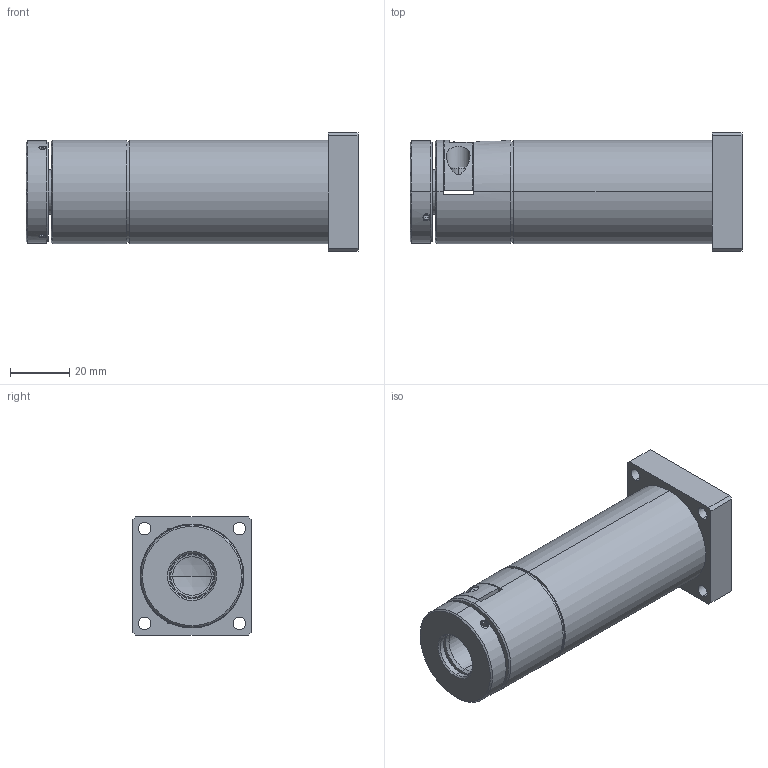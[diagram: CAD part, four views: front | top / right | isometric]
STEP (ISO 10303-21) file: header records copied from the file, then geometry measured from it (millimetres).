
FILE_DESCRIPTION (( 'STEP AP214' ), '1' );
FILE_NAME ('PT-P00553.STEP', '2018-09-19T08:47:08', ( '' ), ( '' ), 'SwSTEP 2.0', 'SolidWorks 2014', '' );
FILE_SCHEMA (( 'AUTOMOTIVE_DESIGN' ));
Length unit declared in the file: millimetre
Products named in the file (1): PT-P00553
Bounding box: 112 x 39.9 x 39.9 mm (x, y, z)
Surface area: 23445.8 mm2 (no closed solid volume)
Topology: 0 solids, 17 shells, 195 faces, 602 edges, 418 vertices
Faces by surface type: plane 87, cylinder 66, cone 31, torus 6, bspline 3, sphere 2
Entity records: 9345 total; most frequent: CARTESIAN_POINT 1900, DIRECTION 1117, ORIENTED_EDGE 991, EDGE_CURVE 596, AXIS2_PLACEMENT_3D 424, VERTEX_POINT 418, LINE 269, VECTOR 269
